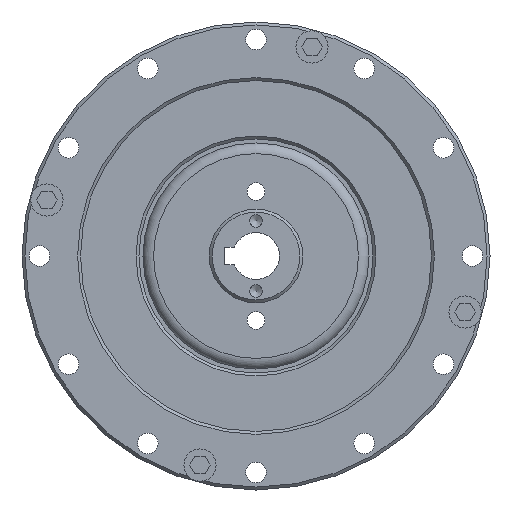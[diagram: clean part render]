
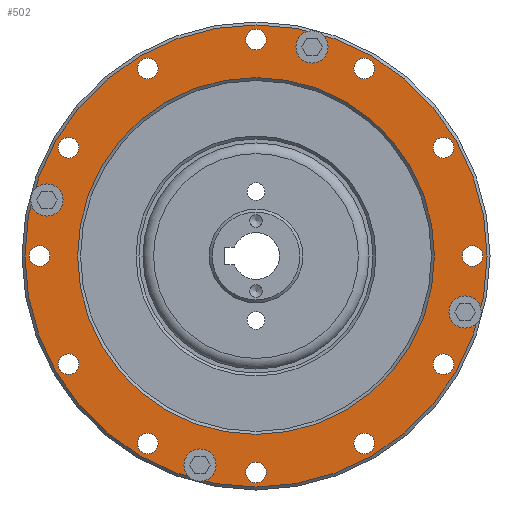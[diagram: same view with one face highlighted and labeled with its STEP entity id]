
A CAD part, left-side view. The second image highlights one B-rep face of the part: STEP entity #502.
In plain terms, the highlighted planar face has unit normal (-1, 0, 0).
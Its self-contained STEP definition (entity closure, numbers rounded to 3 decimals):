
#502=ADVANCED_FACE('',(#1319,#1320,#1321,#1322,#1323,#1324,#1325,#1326,
#1327,#1328,#1329,#1330,#1331,#1332,#1333,#1334,#1335,#1336),#759,.F.);
#759=PLANE('',#4179);
#1319=FACE_BOUND('',#1779,.T.);
#1320=FACE_BOUND('',#1780,.T.);
#1321=FACE_BOUND('',#1781,.T.);
#1322=FACE_BOUND('',#1782,.T.);
#1323=FACE_BOUND('',#1783,.T.);
#1324=FACE_BOUND('',#1784,.T.);
#1325=FACE_BOUND('',#1785,.T.);
#1326=FACE_BOUND('',#1786,.T.);
#1327=FACE_BOUND('',#1787,.T.);
#1328=FACE_BOUND('',#1788,.T.);
#1329=FACE_BOUND('',#1789,.T.);
#1330=FACE_BOUND('',#1790,.T.);
#1331=FACE_BOUND('',#1791,.T.);
#1332=FACE_BOUND('',#1792,.T.);
#1333=FACE_BOUND('',#1793,.T.);
#1334=FACE_BOUND('',#1794,.T.);
#1335=FACE_BOUND('',#1795,.T.);
#1336=FACE_BOUND('',#1796,.T.);
#1779=EDGE_LOOP('',(#2467));
#1780=EDGE_LOOP('',(#2468));
#1781=EDGE_LOOP('',(#2469));
#1782=EDGE_LOOP('',(#2470));
#1783=EDGE_LOOP('',(#2471));
#1784=EDGE_LOOP('',(#2472));
#1785=EDGE_LOOP('',(#2473));
#1786=EDGE_LOOP('',(#2474));
#1787=EDGE_LOOP('',(#2475));
#1788=EDGE_LOOP('',(#2476));
#1789=EDGE_LOOP('',(#2477));
#1790=EDGE_LOOP('',(#2478));
#1791=EDGE_LOOP('',(#2479));
#1792=EDGE_LOOP('',(#2480));
#1793=EDGE_LOOP('',(#2481));
#1794=EDGE_LOOP('',(#2482));
#1795=EDGE_LOOP('',(#2483));
#1796=EDGE_LOOP('',(#2484));
#2467=ORIENTED_EDGE('',*,*,#3557,.T.);
#2468=ORIENTED_EDGE('',*,*,#3558,.T.);
#2469=ORIENTED_EDGE('',*,*,#3559,.T.);
#2470=ORIENTED_EDGE('',*,*,#3560,.T.);
#2471=ORIENTED_EDGE('',*,*,#3561,.T.);
#2472=ORIENTED_EDGE('',*,*,#3562,.T.);
#2473=ORIENTED_EDGE('',*,*,#3563,.T.);
#2474=ORIENTED_EDGE('',*,*,#3564,.T.);
#2475=ORIENTED_EDGE('',*,*,#3565,.T.);
#2476=ORIENTED_EDGE('',*,*,#3566,.T.);
#2477=ORIENTED_EDGE('',*,*,#3567,.T.);
#2478=ORIENTED_EDGE('',*,*,#3568,.T.);
#2479=ORIENTED_EDGE('',*,*,#3569,.T.);
#2480=ORIENTED_EDGE('',*,*,#3570,.T.);
#2481=ORIENTED_EDGE('',*,*,#3571,.T.);
#2482=ORIENTED_EDGE('',*,*,#3572,.T.);
#2483=ORIENTED_EDGE('',*,*,#3573,.T.);
#2484=ORIENTED_EDGE('',*,*,#3574,.T.);
#3140=VERTEX_POINT('',#6138);
#3141=VERTEX_POINT('',#6140);
#3142=VERTEX_POINT('',#6142);
#3143=VERTEX_POINT('',#6144);
#3144=VERTEX_POINT('',#6146);
#3145=VERTEX_POINT('',#6148);
#3146=VERTEX_POINT('',#6150);
#3147=VERTEX_POINT('',#6152);
#3148=VERTEX_POINT('',#6154);
#3149=VERTEX_POINT('',#6156);
#3150=VERTEX_POINT('',#6158);
#3151=VERTEX_POINT('',#6160);
#3152=VERTEX_POINT('',#6162);
#3153=VERTEX_POINT('',#6164);
#3154=VERTEX_POINT('',#6166);
#3155=VERTEX_POINT('',#6168);
#3156=VERTEX_POINT('',#6170);
#3157=VERTEX_POINT('',#6172);
#3557=EDGE_CURVE('',#3140,#3140,#3862,.T.);
#3558=EDGE_CURVE('',#3141,#3141,#3863,.T.);
#3559=EDGE_CURVE('',#3142,#3142,#3864,.T.);
#3560=EDGE_CURVE('',#3143,#3143,#3865,.T.);
#3561=EDGE_CURVE('',#3144,#3144,#3866,.T.);
#3562=EDGE_CURVE('',#3145,#3145,#3867,.T.);
#3563=EDGE_CURVE('',#3146,#3146,#3868,.T.);
#3564=EDGE_CURVE('',#3147,#3147,#3869,.T.);
#3565=EDGE_CURVE('',#3148,#3148,#3870,.T.);
#3566=EDGE_CURVE('',#3149,#3149,#3871,.T.);
#3567=EDGE_CURVE('',#3150,#3150,#3872,.T.);
#3568=EDGE_CURVE('',#3151,#3151,#3873,.T.);
#3569=EDGE_CURVE('',#3152,#3152,#3874,.T.);
#3570=EDGE_CURVE('',#3153,#3153,#3875,.T.);
#3571=EDGE_CURVE('',#3154,#3154,#3876,.T.);
#3572=EDGE_CURVE('',#3155,#3155,#3877,.T.);
#3573=EDGE_CURVE('',#3156,#3156,#3878,.T.);
#3574=EDGE_CURVE('',#3157,#3157,#3879,.T.);
#3862=CIRCLE('',#4161,1.5);
#3863=CIRCLE('',#4162,1.5);
#3864=CIRCLE('',#4163,1.5);
#3865=CIRCLE('',#4164,1.75);
#3866=CIRCLE('',#4165,1.75);
#3867=CIRCLE('',#4166,1.75);
#3868=CIRCLE('',#4167,1.75);
#3869=CIRCLE('',#4168,1.75);
#3870=CIRCLE('',#4169,1.75);
#3871=CIRCLE('',#4170,1.75);
#3872=CIRCLE('',#4171,1.75);
#3873=CIRCLE('',#4172,1.75);
#3874=CIRCLE('',#4173,1.75);
#3875=CIRCLE('',#4174,1.75);
#3876=CIRCLE('',#4175,1.5);
#3877=CIRCLE('',#4176,1.75);
#3878=CIRCLE('',#4177,30.5);
#3879=CIRCLE('',#4178,39.5);
#4161=AXIS2_PLACEMENT_3D('',#6137,#4941,#4942);
#4162=AXIS2_PLACEMENT_3D('',#6139,#4943,#4944);
#4163=AXIS2_PLACEMENT_3D('',#6141,#4945,#4946);
#4164=AXIS2_PLACEMENT_3D('',#6143,#4947,#4948);
#4165=AXIS2_PLACEMENT_3D('',#6145,#4949,#4950);
#4166=AXIS2_PLACEMENT_3D('',#6147,#4951,#4952);
#4167=AXIS2_PLACEMENT_3D('',#6149,#4953,#4954);
#4168=AXIS2_PLACEMENT_3D('',#6151,#4955,#4956);
#4169=AXIS2_PLACEMENT_3D('',#6153,#4957,#4958);
#4170=AXIS2_PLACEMENT_3D('',#6155,#4959,#4960);
#4171=AXIS2_PLACEMENT_3D('',#6157,#4961,#4962);
#4172=AXIS2_PLACEMENT_3D('',#6159,#4963,#4964);
#4173=AXIS2_PLACEMENT_3D('',#6161,#4965,#4966);
#4174=AXIS2_PLACEMENT_3D('',#6163,#4967,#4968);
#4175=AXIS2_PLACEMENT_3D('',#6165,#4969,#4970);
#4176=AXIS2_PLACEMENT_3D('',#6167,#4971,#4972);
#4177=AXIS2_PLACEMENT_3D('',#6169,#4973,#4974);
#4178=AXIS2_PLACEMENT_3D('',#6171,#4975,#4976);
#4179=AXIS2_PLACEMENT_3D('',#6173,#4977,#4978);
#4941=DIRECTION('',(1.,0.,0.));
#4942=DIRECTION('',(0.,-1.,0.));
#4943=DIRECTION('',(1.,0.,0.));
#4944=DIRECTION('',(0.,0.,1.));
#4945=DIRECTION('',(1.,0.,0.));
#4946=DIRECTION('',(0.,1.,0.));
#4947=DIRECTION('',(1.,0.,0.));
#4948=DIRECTION('',(0.,-0.5,-0.866));
#4949=DIRECTION('',(1.,0.,0.));
#4950=DIRECTION('',(0.,-0.866,-0.5));
#4951=DIRECTION('',(1.,0.,0.));
#4952=DIRECTION('',(0.,-1.,0.));
#4953=DIRECTION('',(1.,0.,0.));
#4954=DIRECTION('',(0.,-0.866,0.5));
#4955=DIRECTION('',(1.,0.,0.));
#4956=DIRECTION('',(0.,-0.5,0.866));
#4957=DIRECTION('',(1.,0.,0.));
#4958=DIRECTION('',(0.,0.,1.));
#4959=DIRECTION('',(1.,0.,0.));
#4960=DIRECTION('',(0.,0.5,0.866));
#4961=DIRECTION('',(1.,0.,0.));
#4962=DIRECTION('',(0.,0.866,0.5));
#4963=DIRECTION('',(1.,0.,0.));
#4964=DIRECTION('',(0.,1.,0.));
#4965=DIRECTION('',(1.,0.,0.));
#4966=DIRECTION('',(0.,0.866,-0.5));
#4967=DIRECTION('',(1.,0.,0.));
#4968=DIRECTION('',(0.,0.5,-0.866));
#4969=DIRECTION('',(1.,0.,0.));
#4970=DIRECTION('',(0.,0.,-1.));
#4971=DIRECTION('',(1.,0.,0.));
#4972=DIRECTION('',(0.,0.,-1.));
#4973=DIRECTION('',(1.,0.,0.));
#4974=DIRECTION('',(0.,0.,-1.));
#4975=DIRECTION('',(-1.,0.,0.));
#4976=DIRECTION('',(0.,0.,-1.));
#4977=DIRECTION('',(1.,0.,0.));
#4978=DIRECTION('',(0.,0.,1.));
#6137=CARTESIAN_POINT('',(-6.5,9.576,-35.739));
#6138=CARTESIAN_POINT('',(-6.5,8.076,-35.739));
#6139=CARTESIAN_POINT('',(-6.5,-35.739,-9.576));
#6140=CARTESIAN_POINT('',(-6.5,-35.739,-8.076));
#6141=CARTESIAN_POINT('',(-6.5,-9.576,35.739));
#6142=CARTESIAN_POINT('',(-6.5,-8.076,35.739));
#6143=CARTESIAN_POINT('',(-6.5,32.043,-18.5));
#6144=CARTESIAN_POINT('',(-6.5,31.168,-20.016));
#6145=CARTESIAN_POINT('',(-6.5,18.5,-32.043));
#6146=CARTESIAN_POINT('',(-6.5,16.984,-32.918));
#6147=CARTESIAN_POINT('',(-6.5,0.,-37.));
#6148=CARTESIAN_POINT('',(-6.5,-1.75,-37.));
#6149=CARTESIAN_POINT('',(-6.5,-18.5,-32.043));
#6150=CARTESIAN_POINT('',(-6.5,-20.016,-31.168));
#6151=CARTESIAN_POINT('',(-6.5,-32.043,-18.5));
#6152=CARTESIAN_POINT('',(-6.5,-32.918,-16.984));
#6153=CARTESIAN_POINT('',(-6.5,-37.,0.));
#6154=CARTESIAN_POINT('',(-6.5,-37.,1.75));
#6155=CARTESIAN_POINT('',(-6.5,-32.043,18.5));
#6156=CARTESIAN_POINT('',(-6.5,-31.168,20.016));
#6157=CARTESIAN_POINT('',(-6.5,-18.5,32.043));
#6158=CARTESIAN_POINT('',(-6.5,-16.984,32.918));
#6159=CARTESIAN_POINT('',(-6.5,0.,37.));
#6160=CARTESIAN_POINT('',(-6.5,1.75,37.));
#6161=CARTESIAN_POINT('',(-6.5,18.5,32.043));
#6162=CARTESIAN_POINT('',(-6.5,20.016,31.168));
#6163=CARTESIAN_POINT('',(-6.5,32.043,18.5));
#6164=CARTESIAN_POINT('',(-6.5,32.918,16.984));
#6165=CARTESIAN_POINT('',(-6.5,35.739,9.576));
#6166=CARTESIAN_POINT('',(-6.5,35.739,8.076));
#6167=CARTESIAN_POINT('',(-6.5,37.,0.));
#6168=CARTESIAN_POINT('',(-6.5,37.,-1.75));
#6169=CARTESIAN_POINT('',(-6.5,0.,0.));
#6170=CARTESIAN_POINT('',(-6.5,0.,-30.5));
#6171=CARTESIAN_POINT('',(-6.5,0.,0.));
#6172=CARTESIAN_POINT('',(-6.5,0.,-39.5));
#6173=CARTESIAN_POINT('',(-6.5,40.,0.));
